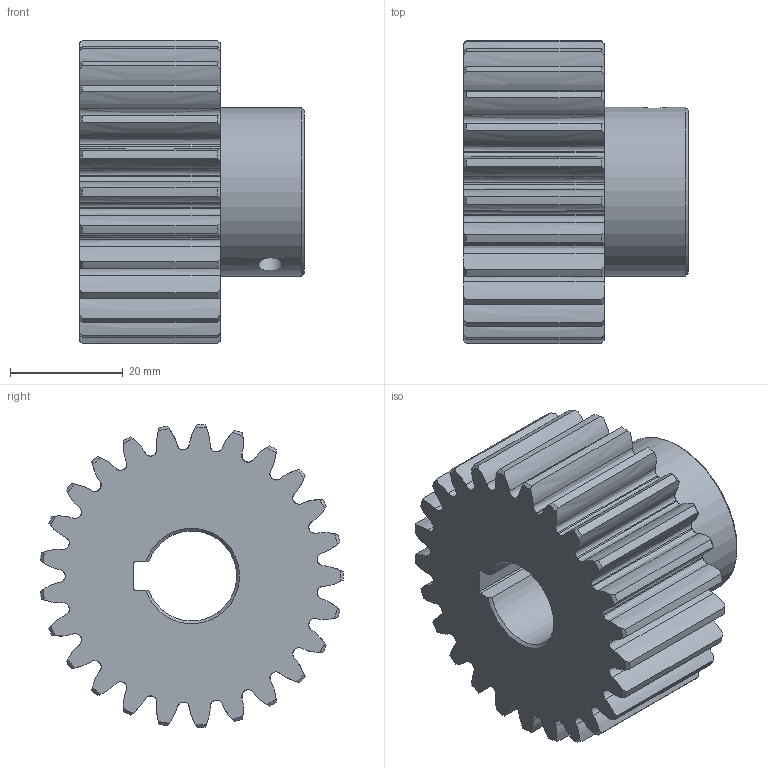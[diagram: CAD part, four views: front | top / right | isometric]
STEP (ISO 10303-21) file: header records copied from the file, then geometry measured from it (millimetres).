
FILE_DESCRIPTION(('STEP AP214'), '1');
FILE_NAME('GS2-T25D16 - Øåñòåðíÿ', '2018-02-16T11:13:00', (''), (''), 'ASCON STEP Converter 1.3', 'ASCON Math Kernel', '');
FILE_SCHEMA(('AUTOMOTIVE_DESIGN { 1 0 10303 214 3 1 1}'));
Length unit declared in the file: millimetre
Products named in the file (1): GS2-T25D16
Bounding box: 40 x 53.87 x 53.96 mm (x, y, z)
Volume: 50367.3 mm3; surface area: 14744.9 mm2
Topology: 1 solids, 1 shells, 215 faces, 635 edges, 423 vertices
Faces by surface type: extrusion 100, cylinder 56, cone 53, plane 6
Full cylindrical faces by diameter (mm): 4.458 x2, 30 x1
Entity records: 11336 total; most frequent: CARTESIAN_POINT 4186, ORIENTED_EDGE 1262, DIRECTION 818, EDGE_CURVE 631, VERTEX_POINT 423, B_SPLINE_CURVE_WITH_KNOTS 407, AXIS2_PLACEMENT_3D 278, VECTOR 262
